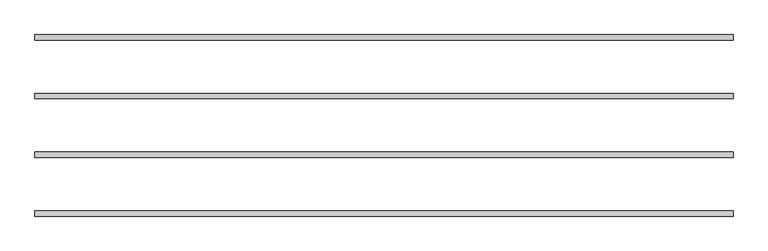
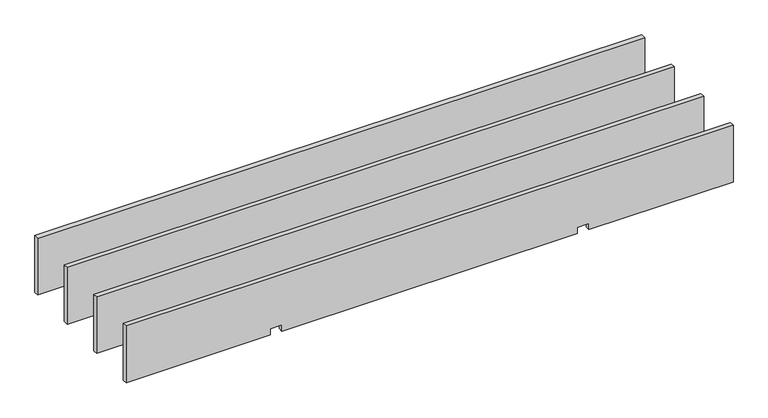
"""IFC4 building model written with IfcOpenShell, lengths in millimetres: proxy geometry."""

from ifc_helpers import new_model, si_unit, frame, origin, place, context, project, spatial, polyline, outline, extrude, source, transform, mapped, element, save


def specialty_equipment_1269500b(model_context):
    return source(origin(), model_context, "Body", "SweptSolid", [
        extrude(outline(polyline([(238.125, -1206.5), (0.0, -1206.5), (0.0, -632.5266291), (25.4635, -632.5266291), (25.4635, -586.6733709), (0.0, -586.6733709), (0.0, 586.6733709), (25.4635, 586.6733709), (25.4635, 632.5266291), (0.0, 632.5266291), (0.0, 1206.5), (238.125, 1206.5), (238.125, -1206.5)])), frame((0.0, 600.59951, 0.0), z_axis=(0.0, 1.0, 0.0), x_axis=(0.0, 0.0, 1.0)), (0.0, 0.0, 1.0), 18.00098),
        extrude(outline(polyline([(238.125, -1206.5), (0.0, -1206.5), (0.0, -632.5266291), (25.4635, -632.5266291), (25.4635, -586.6733709), (0.0, -586.6733709), (0.0, 586.6733709), (25.4635, 586.6733709), (25.4635, 632.5266291), (0.0, 632.5266291), (0.0, 1206.5), (238.125, 1206.5), (238.125, -1206.5)])), frame((0.0, 397.39951, 0.0), z_axis=(0.0, 1.0, 0.0), x_axis=(0.0, 0.0, 1.0)), (0.0, 0.0, 1.0), 18.00098),
        extrude(outline(polyline([(238.125, -1206.5), (0.0, -1206.5), (0.0, -632.5266291), (25.4635, -632.5266291), (25.4635, -586.6733709), (0.0, -586.6733709), (0.0, 586.6733709), (25.4635, 586.6733709), (25.4635, 632.5266291), (0.0, 632.5266291), (0.0, 1206.5), (238.125, 1206.5), (238.125, -1206.5)])), frame((0.0, 194.19951, 0.0), z_axis=(0.0, 1.0, 0.0), x_axis=(0.0, 0.0, 1.0)), (0.0, 0.0, 1.0), 18.00098),
        extrude(outline(polyline([(238.125, -1206.5), (0.0, -1206.5), (0.0, -632.5266291), (25.4635, -632.5266291), (25.4635, -586.6733709), (0.0, -586.6733709), (0.0, 586.6733709), (25.4635, 586.6733709), (25.4635, 632.5266291), (0.0, 632.5266291), (0.0, 1206.5), (238.125, 1206.5), (238.125, -1206.5)])), frame((0.0, -9.00049, 0.0), z_axis=(0.0, 1.0, 0.0), x_axis=(0.0, 0.0, 1.0)), (0.0, 0.0, 1.0), 18.00098),
    ])


if __name__ == "__main__":
    model = new_model("IFC4")
    model_context = context("Model", 3, world=origin())
    ifc_project = project(units=[si_unit("LENGTHUNIT", "METRE", prefix="MILLI")], contexts=[model_context])
    site = spatial("IfcSite", under=ifc_project)
    building = spatial("IfcBuilding", under=site)
    placement = place(None, origin())
    specialty_equipment_shape = specialty_equipment_1269500b(model_context)
    element("IfcBuildingElementProxy", 1, Name="SE_TIMBER BAFFLE_MULTI-SYSTEM_FB_TURF : 95\" - FELTLOCK", ObjectType="SE_TIMBER BAFFLE_MULTI-SYSTEM_FB_TURF : 95\" - FELTLOCK", at=placement, inside=building, context=model_context, shape_type="MappedRepresentation", body=[
        mapped(specialty_equipment_shape, transform((0.0, 0.0, 0.0), x_axis=(1.0, 0.0, 0.0), y_axis=(0.0, 1.0, 0.0), z_axis=(0.0, 0.0, 1.0))),
    ])
    save(model, "model.ifc")
